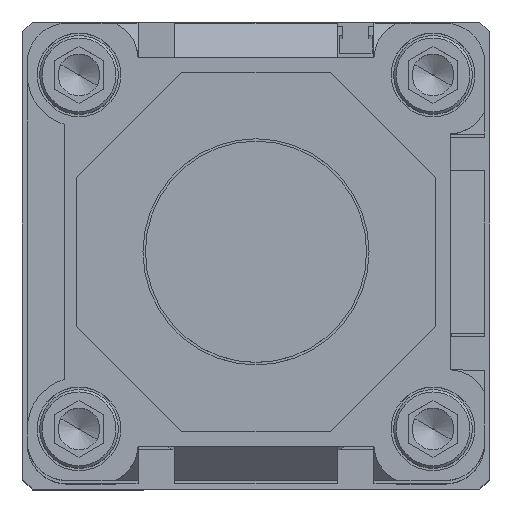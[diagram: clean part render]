
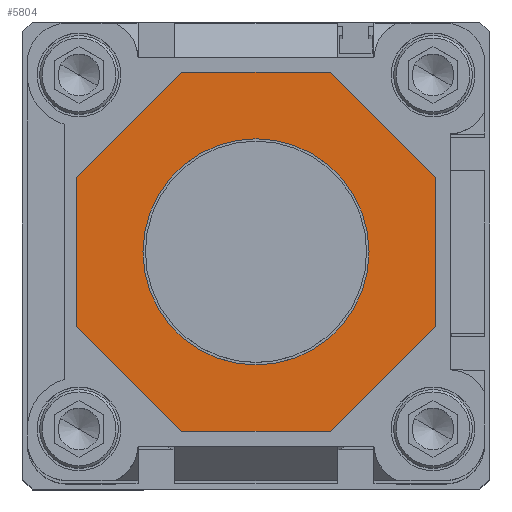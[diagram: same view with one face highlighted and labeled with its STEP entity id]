
A CAD part, top view. The second image highlights one B-rep face of the part: STEP entity #5804.
In plain terms, the highlighted planar face has unit normal (0, 0, 1).
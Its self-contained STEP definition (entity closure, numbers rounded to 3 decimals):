
#32 = CARTESIAN_POINT ( 'NONE',  ( 23., 0., 335. ) ) ;
#42 = VERTEX_POINT ( 'NONE', #13583 ) ;
#543 = CARTESIAN_POINT ( 'NONE',  ( -36.5, 15.119, 335. ) ) ;
#763 = VERTEX_POINT ( 'NONE', #13460 ) ;
#943 = CARTESIAN_POINT ( 'NONE',  ( -36.5, -15.119, 335. ) ) ;
#959 = CIRCLE ( 'NONE', #15241, 23. ) ;
#1211 = AXIS2_PLACEMENT_3D ( 'NONE', #11754, #19276, #8343 ) ;
#1922 = VERTEX_POINT ( 'NONE', #12414 ) ;
#2534 = EDGE_CURVE ( 'NONE', #11131, #13438, #9367, .T. ) ;
#2934 = DIRECTION ( 'NONE',  ( 1., 0., 0. ) ) ;
#2999 = EDGE_LOOP ( 'NONE', ( #5271, #5054 ) ) ;
#3203 = ORIENTED_EDGE ( 'NONE', *, *, #8004, .T. ) ;
#4060 = ORIENTED_EDGE ( 'NONE', *, *, #4756, .T. ) ;
#4389 = CARTESIAN_POINT ( 'NONE',  ( 15.119, -36.5, 335. ) ) ;
#4498 = EDGE_CURVE ( 'NONE', #18294, #21510, #959, .T. ) ;
#4756 = EDGE_CURVE ( 'NONE', #13438, #42, #5492, .T. ) ;
#4914 = EDGE_CURVE ( 'NONE', #20090, #5123, #19187, .T. ) ;
#5014 = DIRECTION ( 'NONE',  ( 0., 0., 1. ) ) ;
#5054 = ORIENTED_EDGE ( 'NONE', *, *, #5390, .T. ) ;
#5123 = VERTEX_POINT ( 'NONE', #23562 ) ;
#5271 = ORIENTED_EDGE ( 'NONE', *, *, #4498, .T. ) ;
#5390 = EDGE_CURVE ( 'NONE', #21510, #18294, #13160, .T. ) ;
#5492 = LINE ( 'NONE', #4389, #19483 ) ;
#5507 = LINE ( 'NONE', #543, #15797 ) ;
#5605 = CARTESIAN_POINT ( 'NONE',  ( 0., 0., 335. ) ) ;
#5804 = ADVANCED_FACE ( 'NONE', ( #9990, #23372 ), #10195, .T. ) ;
#5892 = VECTOR ( 'NONE', #6340, 1000. ) ;
#6018 = ORIENTED_EDGE ( 'NONE', *, *, #13722, .T. ) ;
#6078 = CARTESIAN_POINT ( 'NONE',  ( 15.119, -36.5, 335. ) ) ;
#6340 = DIRECTION ( 'NONE',  ( 0.707, -0.707, 0. ) ) ;
#7427 = DIRECTION ( 'NONE',  ( 1., 0., 0. ) ) ;
#7702 = CARTESIAN_POINT ( 'NONE',  ( -15.119, 36.5, 335. ) ) ;
#7988 = DIRECTION ( 'NONE',  ( 0.707, 0.707, 0. ) ) ;
#8004 = EDGE_CURVE ( 'NONE', #1922, #20090, #15713, .T. ) ;
#8148 = EDGE_CURVE ( 'NONE', #763, #1922, #8556, .T. ) ;
#8343 = DIRECTION ( 'NONE',  ( 1., 0., 0. ) ) ;
#8556 = LINE ( 'NONE', #17383, #23363 ) ;
#9367 = LINE ( 'NONE', #23085, #13641 ) ;
#9990 = FACE_BOUND ( 'NONE', #2999, .T. ) ;
#10195 = PLANE ( 'NONE',  #21825 ) ;
#10421 = DIRECTION ( 'NONE',  ( 1., 0., 0. ) ) ;
#11074 = EDGE_LOOP ( 'NONE', ( #13297, #3203, #14751, #18716, #22544, #15667, #4060, #6018 ) ) ;
#11091 = VECTOR ( 'NONE', #23020, 1000. ) ;
#11131 = VERTEX_POINT ( 'NONE', #16224 ) ;
#11661 = LINE ( 'NONE', #13719, #11091 ) ;
#11754 = CARTESIAN_POINT ( 'NONE',  ( 0., 0., 335. ) ) ;
#11926 = EDGE_CURVE ( 'NONE', #5123, #14101, #5507, .T. ) ;
#12013 = CARTESIAN_POINT ( 'NONE',  ( -15.119, 36.5, 335. ) ) ;
#12414 = CARTESIAN_POINT ( 'NONE',  ( 15.119, 36.5, 335. ) ) ;
#13010 = DIRECTION ( 'NONE',  ( 0., 0., -1. ) ) ;
#13160 = CIRCLE ( 'NONE', #1211, 23. ) ;
#13297 = ORIENTED_EDGE ( 'NONE', *, *, #8148, .T. ) ;
#13374 = CARTESIAN_POINT ( 'NONE',  ( -36.5, -15.119, 335. ) ) ;
#13438 = VERTEX_POINT ( 'NONE', #6078 ) ;
#13460 = CARTESIAN_POINT ( 'NONE',  ( 36.5, 15.119, 335. ) ) ;
#13583 = CARTESIAN_POINT ( 'NONE',  ( 36.5, -15.119, 335. ) ) ;
#13641 = VECTOR ( 'NONE', #10421, 1000. ) ;
#13719 = CARTESIAN_POINT ( 'NONE',  ( 36.5, -15.119, 335. ) ) ;
#13722 = EDGE_CURVE ( 'NONE', #42, #763, #11661, .T. ) ;
#14101 = VERTEX_POINT ( 'NONE', #13374 ) ;
#14677 = DIRECTION ( 'NONE',  ( -1., 0., 0. ) ) ;
#14751 = ORIENTED_EDGE ( 'NONE', *, *, #4914, .T. ) ;
#15131 = VECTOR ( 'NONE', #14677, 1000. ) ;
#15241 = AXIS2_PLACEMENT_3D ( 'NONE', #5605, #13010, #7427 ) ;
#15667 = ORIENTED_EDGE ( 'NONE', *, *, #2534, .T. ) ;
#15713 = LINE ( 'NONE', #16354, #15131 ) ;
#15797 = VECTOR ( 'NONE', #22870, 1000. ) ;
#16224 = CARTESIAN_POINT ( 'NONE',  ( -15.119, -36.5, 335. ) ) ;
#16354 = CARTESIAN_POINT ( 'NONE',  ( 15.119, 36.5, 335. ) ) ;
#17318 = LINE ( 'NONE', #943, #5892 ) ;
#17383 = CARTESIAN_POINT ( 'NONE',  ( 36.5, 15.119, 335. ) ) ;
#18294 = VERTEX_POINT ( 'NONE', #32 ) ;
#18716 = ORIENTED_EDGE ( 'NONE', *, *, #11926, .T. ) ;
#19187 = LINE ( 'NONE', #12013, #23424 ) ;
#19276 = DIRECTION ( 'NONE',  ( 0., 0., -1. ) ) ;
#19483 = VECTOR ( 'NONE', #7988, 1000. ) ;
#20090 = VERTEX_POINT ( 'NONE', #7702 ) ;
#20955 = DIRECTION ( 'NONE',  ( -0.707, 0.707, 0. ) ) ;
#21099 = CARTESIAN_POINT ( 'NONE',  ( 0., 51.619, 335. ) ) ;
#21510 = VERTEX_POINT ( 'NONE', #22313 ) ;
#21825 = AXIS2_PLACEMENT_3D ( 'NONE', #21099, #5014, #2934 ) ;
#21833 = EDGE_CURVE ( 'NONE', #14101, #11131, #17318, .T. ) ;
#22313 = CARTESIAN_POINT ( 'NONE',  ( -23., 0., 335. ) ) ;
#22544 = ORIENTED_EDGE ( 'NONE', *, *, #21833, .T. ) ;
#22870 = DIRECTION ( 'NONE',  ( 0., -1., 0. ) ) ;
#23020 = DIRECTION ( 'NONE',  ( 0., 1., 0. ) ) ;
#23030 = DIRECTION ( 'NONE',  ( -0.707, -0.707, 0. ) ) ;
#23085 = CARTESIAN_POINT ( 'NONE',  ( -15.119, -36.5, 335. ) ) ;
#23363 = VECTOR ( 'NONE', #20955, 1000. ) ;
#23372 = FACE_OUTER_BOUND ( 'NONE', #11074, .T. ) ;
#23424 = VECTOR ( 'NONE', #23030, 1000. ) ;
#23562 = CARTESIAN_POINT ( 'NONE',  ( -36.5, 15.119, 335. ) ) ;
